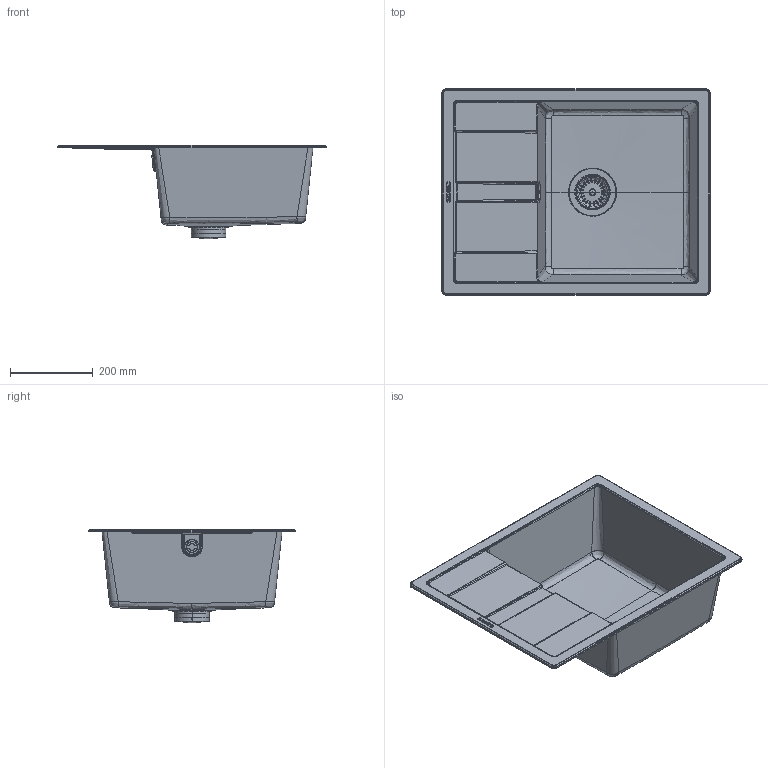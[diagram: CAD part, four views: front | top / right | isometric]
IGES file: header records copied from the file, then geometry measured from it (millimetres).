
Global section: file name: /Volumes/__KUNDEN/____01_SCHOCK/____projekte_schock/__RENDERINGS/__SPUELEN/02_3D Daten/02_PERSPEKTIVEN/Rhino/_SPU; native system: Rhinoceros ( Aug 27 2014 ); preprocessor: Trout Lake IGES 012 Aug 27 2014; date: 141104.094211; units: millimetre
Bounding box: 650 x 500 x 227.02 mm (x, y, z)
Surface area: 630798.2 mm2 (no closed solid volume)
Topology: 0 solids, 0 shells, 408 faces, 42207 edges, 42197 vertices
Faces by surface type: bspline 408
